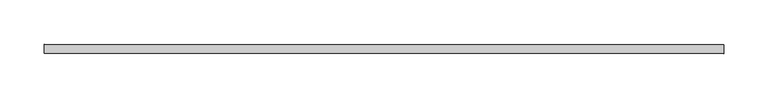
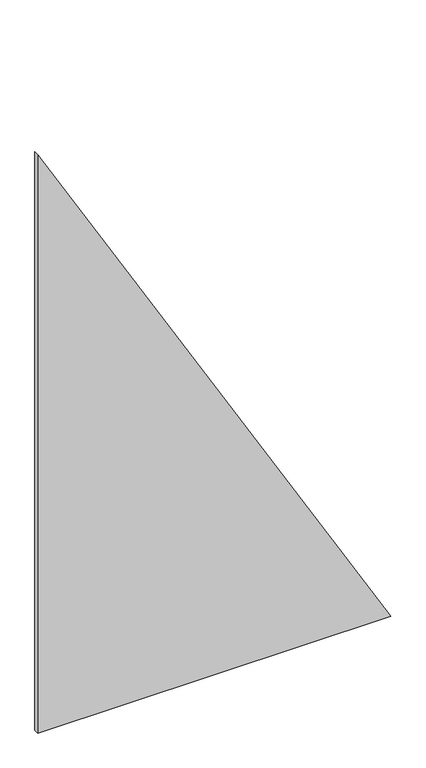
"""IFC4 building model written with IfcOpenShell, lengths in millimetres: plate geometry, 系統嵌板 : 玻璃 1.0cm."""

from ifc_helpers import new_model, si_unit, frame, origin, place, context, project, spatial, polyline, outline, extrude, source, transform, mapped, element, save


def plate_37a8cfe6(model_context):
    return source(origin(), model_context, "Body", "SweptSolid", [
        extrude(outline(polyline([(0.0, -381.9418743), (0.0, 381.9418743), (1323.0854638, -381.9418743), (0.0, -381.9418743)])), frame((0.0, -5.0, 0.0), z_axis=(0.0, 1.0, 0.0), x_axis=(0.0, 0.0, 1.0)), (0.0, 0.0, 1.0), 10.0),
    ])


if __name__ == "__main__":
    model = new_model("IFC4")
    model_context = context("Model", 3, world=origin())
    ifc_project = project(units=[si_unit("LENGTHUNIT", "METRE", prefix="MILLI")], contexts=[model_context])
    site = spatial("IfcSite", under=ifc_project)
    building = spatial("IfcBuilding", under=site)
    placement = place(None, origin())
    plate_shape = plate_37a8cfe6(model_context)
    element("IfcPlate", 1, ObjectType="系統嵌板 : 玻璃 1.0cm", at=placement, inside=building, context=model_context, shape_type="MappedRepresentation", body=[
        mapped(plate_shape, transform((0.0, 0.0, 0.0), x_axis=(1.0, 0.0, 0.0), y_axis=(0.0, 1.0, 0.0), z_axis=(0.0, 0.0, 1.0))),
    ])
    save(model, "model.ifc")
